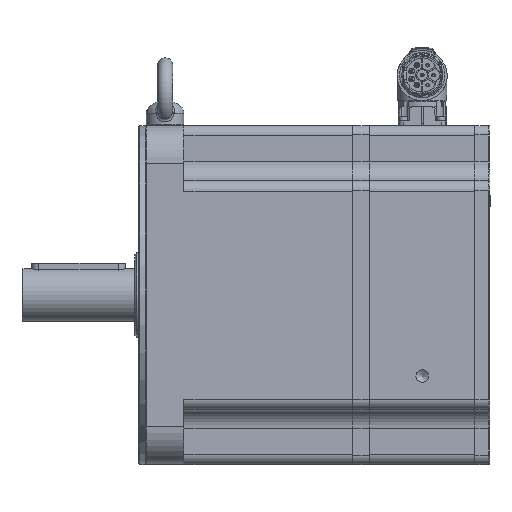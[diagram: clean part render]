
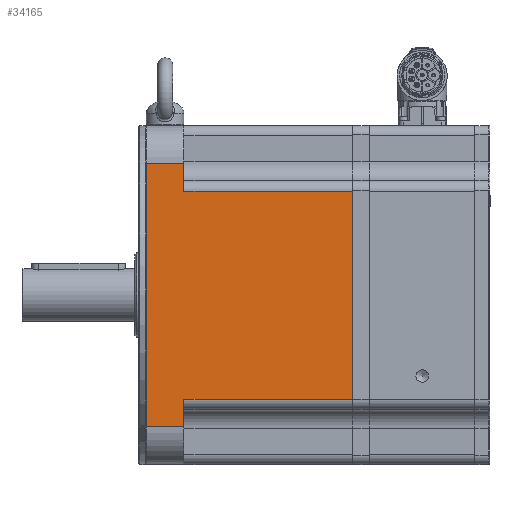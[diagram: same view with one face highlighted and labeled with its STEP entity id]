
A CAD part, left-side view. The second image highlights one B-rep face of the part: STEP entity #34165.
In plain terms, the highlighted planar face has unit normal (-1, 0, 0) as drawn and (1, 0, 0) by its records, which use the part's own axes.
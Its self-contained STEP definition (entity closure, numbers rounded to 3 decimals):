
#566=PLANE('',#36385);
#2866=LINE('',#49880,#4467);
#2880=LINE('',#49960,#4481);
#2887=LINE('',#50005,#4488);
#2895=LINE('',#50029,#4496);
#2896=LINE('',#50030,#4497);
#2897=LINE('',#50032,#4498);
#2898=LINE('',#50034,#4499);
#2899=LINE('',#50035,#4500);
#4467=VECTOR('',#40384,1000.);
#4481=VECTOR('',#40458,1000.);
#4488=VECTOR('',#40503,1000.);
#4496=VECTOR('',#40527,1000.);
#4497=VECTOR('',#40528,1000.);
#4498=VECTOR('',#40529,1000.);
#4499=VECTOR('',#40530,1000.);
#4500=VECTOR('',#40531,1000.);
#8493=ORIENTED_EDGE('',*,*,#14052,.F.);
#8494=ORIENTED_EDGE('',*,*,#14120,.T.);
#8495=ORIENTED_EDGE('',*,*,#14088,.F.);
#8496=ORIENTED_EDGE('',*,*,#14121,.T.);
#8497=ORIENTED_EDGE('',*,*,#14122,.F.);
#8498=ORIENTED_EDGE('',*,*,#14123,.T.);
#8499=ORIENTED_EDGE('',*,*,#14108,.F.);
#8500=ORIENTED_EDGE('',*,*,#14124,.T.);
#14052=EDGE_CURVE('',#17109,#17110,#2866,.T.);
#14088=EDGE_CURVE('',#17145,#17146,#2880,.T.);
#14108=EDGE_CURVE('',#17165,#17166,#2887,.T.);
#14120=EDGE_CURVE('',#17109,#17146,#2895,.F.);
#14121=EDGE_CURVE('',#17145,#17173,#2896,.T.);
#14122=EDGE_CURVE('',#17174,#17173,#2897,.T.);
#14123=EDGE_CURVE('',#17174,#17166,#2898,.F.);
#14124=EDGE_CURVE('',#17165,#17110,#2899,.T.);
#17109=VERTEX_POINT('',#49879);
#17110=VERTEX_POINT('',#49881);
#17145=VERTEX_POINT('',#49959);
#17146=VERTEX_POINT('',#49961);
#17165=VERTEX_POINT('',#50006);
#17166=VERTEX_POINT('',#50007);
#17173=VERTEX_POINT('',#50031);
#17174=VERTEX_POINT('',#50033);
#20166=EDGE_LOOP('',(#8493,#8494,#8495,#8496,#8497,#8498,#8499,#8500));
#22180=FACE_BOUND('',#20166,.T.);
#34165=ADVANCED_FACE('',(#22180),#566,.T.);
#36385=AXIS2_PLACEMENT_3D('',#50028,#40525,#40526);
#40384=DIRECTION('',(0.,0.,-1.));
#40458=DIRECTION('',(0.,0.,-1.));
#40503=DIRECTION('',(0.,0.,-1.));
#40525=DIRECTION('',(1.,0.,0.));
#40526=DIRECTION('',(0.,1.,0.));
#40527=DIRECTION('',(0.,1.,0.));
#40528=DIRECTION('',(0.,-1.,0.));
#40529=DIRECTION('',(0.,0.,1.));
#40530=DIRECTION('',(0.,-1.,0.));
#40531=DIRECTION('',(0.,1.,0.));
#49879=CARTESIAN_POINT('',(90.,110.8,55.2));
#49880=CARTESIAN_POINT('',(90.,110.8,-90.));
#49881=CARTESIAN_POINT('',(90.,110.8,-55.2));
#49959=CARTESIAN_POINT('',(90.,21.3,70.));
#49960=CARTESIAN_POINT('',(90.,21.3,-90.));
#49961=CARTESIAN_POINT('',(90.,21.3,55.2));
#50005=CARTESIAN_POINT('',(90.,21.3,-90.));
#50006=CARTESIAN_POINT('',(90.,21.3,-55.2));
#50007=CARTESIAN_POINT('',(90.,21.3,-70.));
#50028=CARTESIAN_POINT('',(90.,491.763,-90.));
#50029=CARTESIAN_POINT('',(90.,491.763,55.2));
#50030=CARTESIAN_POINT('',(90.,491.763,70.));
#50031=CARTESIAN_POINT('',(90.,1.3,70.));
#50032=CARTESIAN_POINT('',(90.,1.3,-90.));
#50033=CARTESIAN_POINT('',(90.,1.3,-70.));
#50034=CARTESIAN_POINT('',(90.,491.763,-70.));
#50035=CARTESIAN_POINT('',(90.,491.763,-55.2));
